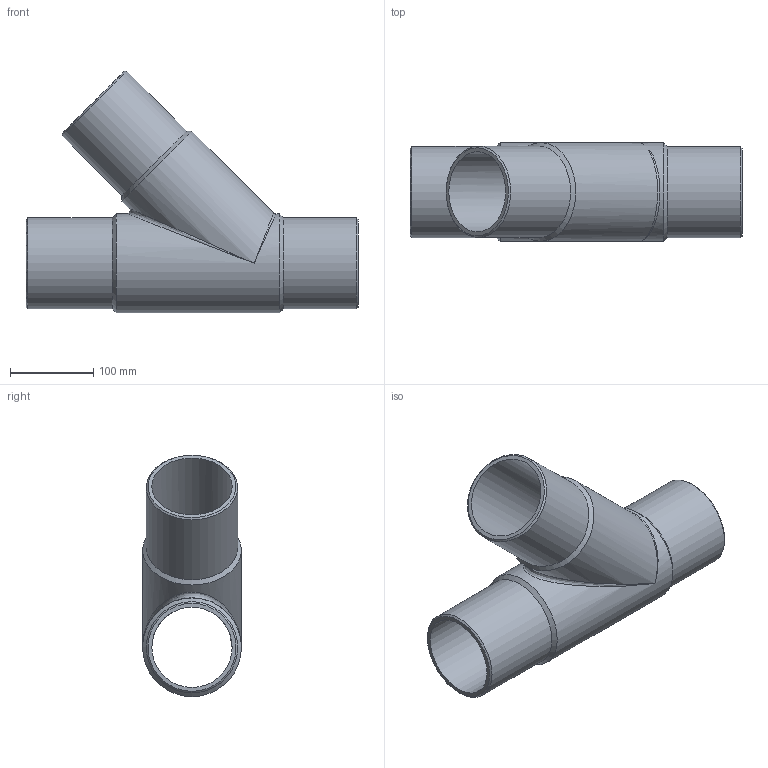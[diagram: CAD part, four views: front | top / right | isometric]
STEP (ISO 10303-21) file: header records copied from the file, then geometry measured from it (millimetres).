
FILE_DESCRIPTION(/* description */ ('Unknown'),/* implementation_level */ '2;1');
FILE_NAME(/* name */ 'T4P110B',/* time_stamp */ '2022-02-23T11:01:37+01:00',/* author */ ('Unknown'),/* organization */ ('Unknown'),/* preprocessor_version */ 'ST-DEVELOPER v18.1',/* originating_system */ 'Solid Edge',/* authorisation */ 'Unknown');
FILE_SCHEMA (('AUTOMOTIVE_DESIGN {1 0 10303 214 3 1 1}'));
Length unit declared in the file: millimetre
Products named in the file (1): T4P110B
Bounding box: 400 x 119 x 290.83 mm (x, y, z)
Volume: 1675703.2 mm3; surface area: 388431.2 mm2
Topology: 1 solids, 1 shells, 18 faces, 47 edges, 26 vertices
Faces by surface type: cylinder 7, cone 6, plane 3, bspline 2
Full cylindrical faces by diameter (mm): 96.8 x2, 110 x3, 119 x2
Entity records: 516 total; most frequent: CARTESIAN_POINT 159, DIRECTION 76, ORIENTED_EDGE 42, AXIS2_PLACEMENT_3D 38, EDGE_LOOP 36, FACE_BOUND 36, EDGE_CURVE 21, VERTEX_POINT 19
